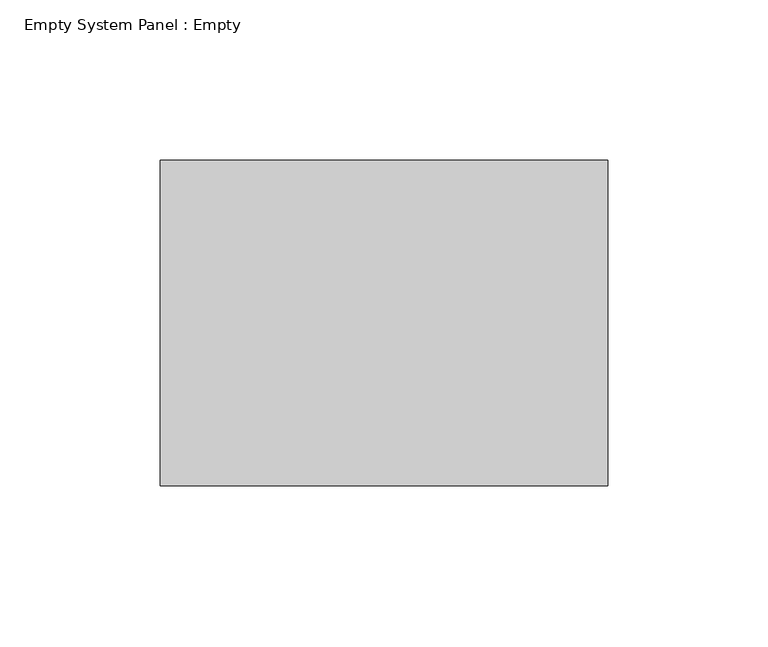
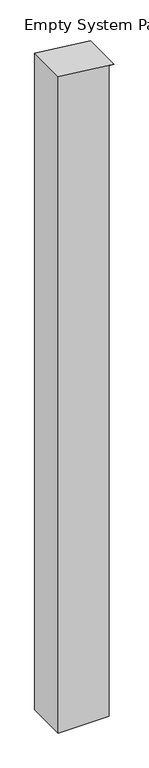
"""IFC4 building model written with IfcOpenShell, lengths in millimetres: plate geometry, Empty System Panel : Empty."""

from ifc_helpers import new_model, si_unit, frame, origin, place, context, project, spatial, polyline, outline, extrude, source, transform, mapped, element, save


def empty_system_panel_empty_1085abd6(model_context):
    return source(origin(), model_context, "Body", "SweptSolid", [
        extrude(outline(polyline([(0.0, -69.85), (0.0, 57.15), (1718.6169835, 57.15), (1718.6169835, 69.85), (1734.2421735, -69.85), (0.0, -69.85)])), frame((0.0, -50.8, 0.0), z_axis=(0.0, 1.0, 0.0), x_axis=(0.0, 0.0, 1.0)), (0.0, 0.0, 1.0), 101.6),
    ])


if __name__ == "__main__":
    model = new_model("IFC4")
    model_context = context("Model", 3, world=origin())
    ifc_project = project(units=[si_unit("LENGTHUNIT", "METRE", prefix="MILLI")], contexts=[model_context])
    site = spatial("IfcSite", under=ifc_project)
    building = spatial("IfcBuilding", under=site)
    placement = place(None, origin())
    empty_system_panel_empty_shape = empty_system_panel_empty_1085abd6(model_context)
    element("IfcPlate", 1, ObjectType="Empty System Panel : Empty", at=placement, inside=building, context=model_context, shape_type="MappedRepresentation", body=[
        mapped(empty_system_panel_empty_shape, transform((0.0, 0.0, 0.0), x_axis=(1.0, 0.0, 0.0), y_axis=(0.0, 1.0, 0.0), z_axis=(0.0, 0.0, 1.0))),
    ])
    save(model, "model.ifc")
